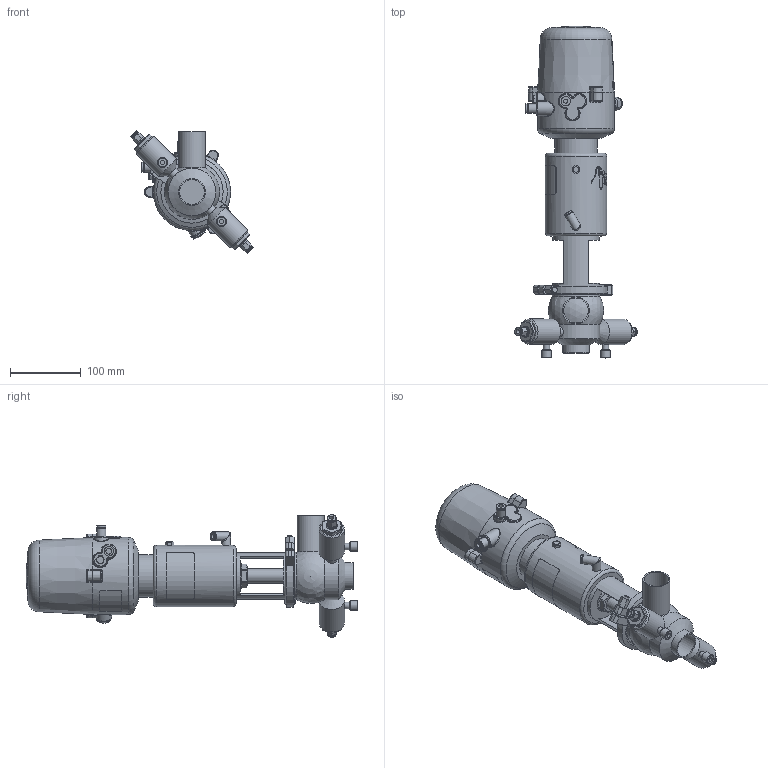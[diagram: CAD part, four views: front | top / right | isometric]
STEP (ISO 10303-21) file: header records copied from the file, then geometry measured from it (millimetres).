
FILE_DESCRIPTION (( 'STEP AP214' ), '1' );
FILE_NAME ('INNOVA D L W OD 1½ T1 AS NC & C-TOP S_10.246.16.0003.STEP', '2024-08-08T09:43:09', ( '' ), ( '' ), 'SwSTEP 2.0', 'SolidWorks 2023', '' );
FILE_SCHEMA (( 'AUTOMOTIVE_DESIGN' ));
Length unit declared in the file: millimetre
Products named in the file (7): 10.426.15.0001_C-TOP S - 1 EV; 10.240.15.0014_T1 AS P0; 10.240.15.0017_Estàndard; INNOVA D L W OD 1½ T1 AS NC & C-TOP S_10.246.16.0003; 10.240.15.0001_DN 040; 10.240.15.0010_DN 040; 10.246.15.0001_OD 1½"
Assembly tree (6 placements, depth 2):
  INNOVA D L W OD 1½ T1 AS NC & C-TOP S_10.246.16.0003
    10.246.15.0001_OD 1½"
    10.240.15.0010_DN 040
    10.240.15.0014_T1 AS P0
    10.240.15.0017_Estàndard
    10.426.15.0001_C-TOP S - 1 EV
    10.240.15.0001_DN 040
Bounding box: 173.38 x 469.5 x 173.38 mm (x, y, z)
Volume: 2697024.9 mm3; surface area: 243199.9 mm2
Topology: 6 solids, 6 shells, 1195 faces, 2838 edges, 1882 vertices
Faces by surface type: plane 441, cylinder 350, cone 202, bspline 160, torus 36, sphere 6
Full cylindrical faces by diameter (mm): 0.371 x17, 0.512 x16, 0.658 x16, 0.795 x16, 0.94 x15, 1.098 x15, 1.241 x13, 1.382 x13, 1.523 x11, 1.669 x10, 2.201 x1, 4 x2, 5.5 x2, 6 x6, 6.15 x1, 8 x4, 8.5 x1, 9 x2, 10 x3, 10.5 x1, 11 x2, 12 x4, 12.5 x3, 13 x2, 13.5 x2, 14 x4, 15 x2, 16 x1, 17 x3, 20 x3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
Entity records: 59244 total; most frequent: CARTESIAN_POINT 27389, ORIENTED_EDGE 4812, DIRECTION 3997, EDGE_CURVE 2406, VERTEX_POINT 1709, EDGE_LOOP 1691, AXIS2_PLACEMENT_3D 1616, FACE_OUTER_BOUND 1426
